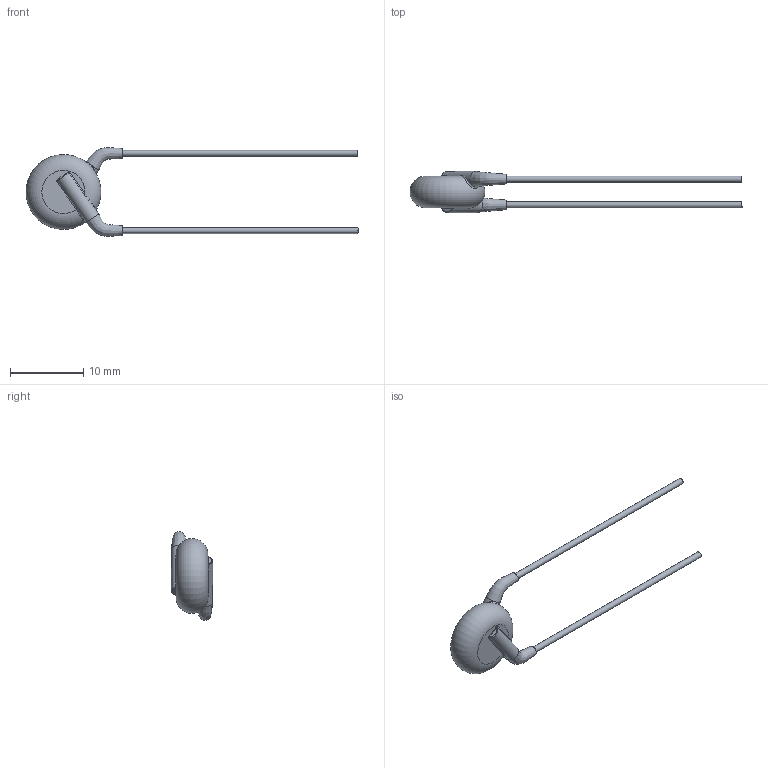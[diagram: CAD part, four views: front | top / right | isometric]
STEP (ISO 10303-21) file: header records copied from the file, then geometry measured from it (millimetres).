
FILE_DESCRIPTION(/* description */ (''),/* implementation_level */ '2;1');
FILE_NAME(/* name */ 'I:\Marketing\M6t1\3D-Models\Zchng-Werk-3\Upload for homepage\Ceramite\Y5U\440LD20-R\440LD20-R.stp',/* time_stamp */ '2016-11-10T14:12:37+01:00',/* author */ ('sheinrich'),/* organization */ (''),/* preprocessor_version */ 'ST-DEVELOPER v16.1',/* originating_system */ 'Autodesk Inventor 2016',/* authorisation */ '');
FILE_SCHEMA (('AUTOMOTIVE_DESIGN { 1 0 10303 214 3 1 1 }'));
Length unit declared in the file: millimetre
Products named in the file (1): 440LD20-R
Bounding box: 45.2 x 5.6 x 12.07 mm (x, y, z)
Volume: 367.9 mm3; surface area: 469.7 mm2
Topology: 1 solids, 1 shells, 37 faces, 80 edges, 43 vertices
Faces by surface type: bspline 12, cylinder 10, plane 8, torus 7
Full cylindrical faces by diameter (mm): 0.81 x2, 2.1 x2
Entity records: 1784 total; most frequent: CARTESIAN_POINT 1033, ORIENTED_EDGE 136, DIRECTION 128, EDGE_CURVE 68, AXIS2_PLACEMENT_3D 58, EDGE_LOOP 44, VERTEX_POINT 40, STYLED_ITEM 38
